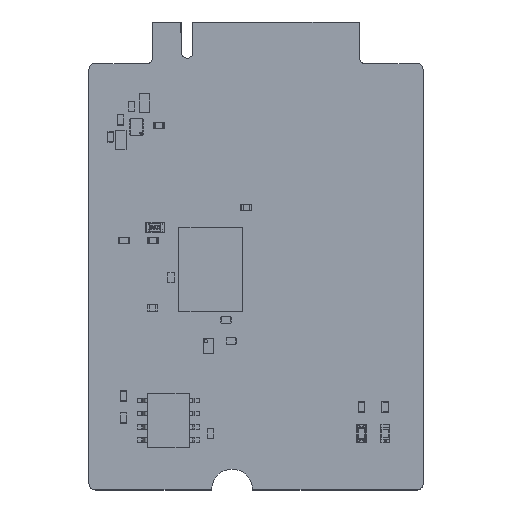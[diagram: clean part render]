
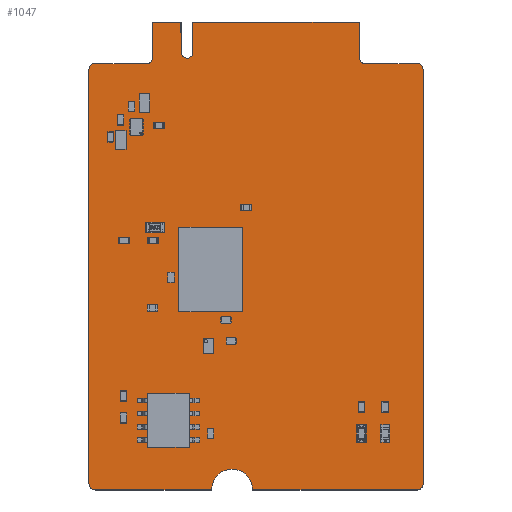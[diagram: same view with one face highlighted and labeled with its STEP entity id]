
A CAD part, top view. The second image highlights one B-rep face of the part: STEP entity #1047.
In plain terms, the highlighted planar face has unit normal (0, 0, 1).
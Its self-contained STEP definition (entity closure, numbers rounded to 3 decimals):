
#152 = VERTEX_POINT('',#153);
#153 = CARTESIAN_POINT('',(-0.011,0.543,0.796));
#159 = EDGE_CURVE('',#152,#160,#162,.T.);
#160 = VERTEX_POINT('',#161);
#161 = CARTESIAN_POINT('',(0.626,-0.094,0.796));
#162 = CIRCLE('',#163,0.635);
#163 = AXIS2_PLACEMENT_3D('',#164,#165,#166);
#164 = CARTESIAN_POINT('',(0.624,0.541,0.796));
#165 = DIRECTION('',(0.,0.,1.));
#166 = DIRECTION('',(-1.,0.003,0.));
#192 = EDGE_CURVE('',#160,#193,#195,.T.);
#193 = VERTEX_POINT('',#194);
#194 = CARTESIAN_POINT('',(11.739,-0.094,0.796));
#195 = LINE('',#196,#197);
#196 = CARTESIAN_POINT('',(0.626,-0.094,0.796));
#197 = VECTOR('',#198,1.);
#198 = DIRECTION('',(1.,0.,0.));
#223 = EDGE_CURVE('',#193,#224,#226,.T.);
#224 = VERTEX_POINT('',#225);
#225 = CARTESIAN_POINT('',(11.789,-0.044,0.796));
#226 = LINE('',#227,#228);
#227 = CARTESIAN_POINT('',(11.739,-0.094,0.796));
#228 = VECTOR('',#229,1.);
#229 = DIRECTION('',(0.707,0.707,0.));
#254 = EDGE_CURVE('',#224,#255,#257,.T.);
#255 = VERTEX_POINT('',#256);
#256 = CARTESIAN_POINT('',(15.689,-0.044,0.796));
#257 = CIRCLE('',#258,1.95);
#258 = AXIS2_PLACEMENT_3D('',#259,#260,#261);
#259 = CARTESIAN_POINT('',(13.739,-0.044,0.796));
#260 = DIRECTION('',(0.,0.,-1.));
#261 = DIRECTION('',(-1.,0.,0.));
#287 = EDGE_CURVE('',#255,#288,#290,.T.);
#288 = VERTEX_POINT('',#289);
#289 = CARTESIAN_POINT('',(15.739,-0.094,0.796));
#290 = LINE('',#291,#292);
#291 = CARTESIAN_POINT('',(15.689,-0.044,0.796));
#292 = VECTOR('',#293,1.);
#293 = DIRECTION('',(0.707,-0.707,0.));
#318 = EDGE_CURVE('',#288,#319,#321,.T.);
#319 = VERTEX_POINT('',#320);
#320 = CARTESIAN_POINT('',(31.54,-0.094,0.796));
#321 = LINE('',#322,#323);
#322 = CARTESIAN_POINT('',(15.739,-0.094,0.796));
#323 = VECTOR('',#324,1.);
#324 = DIRECTION('',(1.,0.,0.));
#349 = EDGE_CURVE('',#319,#350,#352,.T.);
#350 = VERTEX_POINT('',#351);
#351 = CARTESIAN_POINT('',(32.089,0.456,0.796));
#352 = CIRCLE('',#353,0.55);
#353 = AXIS2_PLACEMENT_3D('',#354,#355,#356);
#354 = CARTESIAN_POINT('',(31.539,0.456,0.796));
#355 = DIRECTION('',(0.,0.,1.));
#356 = DIRECTION('',(0.001,-1.,0.));
#382 = EDGE_CURVE('',#350,#383,#385,.T.);
#383 = VERTEX_POINT('',#384);
#384 = CARTESIAN_POINT('',(32.089,40.331,0.796));
#385 = LINE('',#386,#387);
#386 = CARTESIAN_POINT('',(32.089,0.456,0.796));
#387 = VECTOR('',#388,1.);
#388 = DIRECTION('',(0.,1.,0.));
#413 = EDGE_CURVE('',#383,#414,#416,.T.);
#414 = VERTEX_POINT('',#415);
#415 = CARTESIAN_POINT('',(31.539,40.881,0.796));
#416 = CIRCLE('',#417,0.55);
#417 = AXIS2_PLACEMENT_3D('',#418,#419,#420);
#418 = CARTESIAN_POINT('',(31.539,40.331,0.796));
#419 = DIRECTION('',(0.,0.,1.));
#420 = DIRECTION('',(1.,-0.001,0.));
#446 = EDGE_CURVE('',#414,#447,#449,.T.);
#447 = VERTEX_POINT('',#448);
#448 = CARTESIAN_POINT('',(26.464,40.881,0.796));
#449 = LINE('',#450,#451);
#450 = CARTESIAN_POINT('',(31.539,40.881,0.796));
#451 = VECTOR('',#452,1.);
#452 = DIRECTION('',(-1.,0.,0.));
#477 = EDGE_CURVE('',#447,#478,#480,.T.);
#478 = VERTEX_POINT('',#479);
#479 = CARTESIAN_POINT('',(26.015,41.331,0.796));
#480 = CIRCLE('',#481,0.449);
#481 = AXIS2_PLACEMENT_3D('',#482,#483,#484);
#482 = CARTESIAN_POINT('',(26.464,41.33,0.796));
#483 = DIRECTION('',(0.,0.,-1.));
#484 = DIRECTION('',(0.,-1.,0.));
#510 = EDGE_CURVE('',#478,#511,#513,.T.);
#511 = VERTEX_POINT('',#512);
#512 = CARTESIAN_POINT('',(26.015,44.831,0.796));
#513 = LINE('',#514,#515);
#514 = CARTESIAN_POINT('',(26.015,41.331,0.796));
#515 = VECTOR('',#516,1.);
#516 = DIRECTION('',(0.,1.,0.));
#541 = EDGE_CURVE('',#511,#478,#542,.T.);
#542 = LINE('',#543,#544);
#543 = CARTESIAN_POINT('',(26.015,44.831,0.796));
#544 = VECTOR('',#545,1.);
#545 = DIRECTION('',(0.,-1.,0.));
#563 = EDGE_CURVE('',#478,#564,#566,.T.);
#564 = VERTEX_POINT('',#565);
#565 = CARTESIAN_POINT('',(25.964,44.881,0.796));
#566 = LINE('',#567,#568);
#567 = CARTESIAN_POINT('',(26.015,41.331,0.796));
#568 = VECTOR('',#569,1.);
#569 = DIRECTION('',(-0.014,1.,0.));
#594 = EDGE_CURVE('',#564,#595,#597,.T.);
#595 = VERTEX_POINT('',#596);
#596 = CARTESIAN_POINT('',(10.014,44.881,0.796));
#597 = LINE('',#598,#599);
#598 = CARTESIAN_POINT('',(25.964,44.881,0.796));
#599 = VECTOR('',#600,1.);
#600 = DIRECTION('',(-1.,0.,0.));
#625 = EDGE_CURVE('',#595,#626,#628,.T.);
#626 = VERTEX_POINT('',#627);
#627 = CARTESIAN_POINT('',(9.964,44.831,0.796));
#628 = LINE('',#629,#630);
#629 = CARTESIAN_POINT('',(10.014,44.881,0.796));
#630 = VECTOR('',#631,1.);
#631 = DIRECTION('',(-0.707,-0.707,0.));
#656 = EDGE_CURVE('',#626,#657,#659,.T.);
#657 = VERTEX_POINT('',#658);
#658 = CARTESIAN_POINT('',(9.964,41.951,0.796));
#659 = LINE('',#660,#661);
#660 = CARTESIAN_POINT('',(9.964,44.831,0.796));
#661 = VECTOR('',#662,1.);
#662 = DIRECTION('',(0.,-1.,0.));
#687 = EDGE_CURVE('',#657,#688,#690,.T.);
#688 = VERTEX_POINT('',#689);
#689 = CARTESIAN_POINT('',(8.864,41.951,0.796));
#690 = CIRCLE('',#691,0.55);
#691 = AXIS2_PLACEMENT_3D('',#692,#693,#694);
#692 = CARTESIAN_POINT('',(9.414,41.951,0.796));
#693 = DIRECTION('',(0.,0.,-1.));
#694 = DIRECTION('',(1.,0.,0.));
#720 = EDGE_CURVE('',#688,#721,#723,.T.);
#721 = VERTEX_POINT('',#722);
#722 = CARTESIAN_POINT('',(8.864,44.831,0.796));
#723 = LINE('',#724,#725);
#724 = CARTESIAN_POINT('',(8.864,41.951,0.796));
#725 = VECTOR('',#726,1.);
#726 = DIRECTION('',(0.,1.,0.));
#751 = EDGE_CURVE('',#721,#688,#752,.T.);
#752 = LINE('',#753,#754);
#753 = CARTESIAN_POINT('',(8.864,44.831,0.796));
#754 = VECTOR('',#755,1.);
#755 = DIRECTION('',(0.,-1.,0.));
#773 = EDGE_CURVE('',#688,#774,#776,.T.);
#774 = VERTEX_POINT('',#775);
#775 = CARTESIAN_POINT('',(8.814,44.881,0.796));
#776 = LINE('',#777,#778);
#777 = CARTESIAN_POINT('',(8.864,41.951,0.796));
#778 = VECTOR('',#779,1.);
#779 = DIRECTION('',(-0.017,1.,0.));
#804 = EDGE_CURVE('',#774,#805,#807,.T.);
#805 = VERTEX_POINT('',#806);
#806 = CARTESIAN_POINT('',(6.114,44.881,0.796));
#807 = LINE('',#808,#809);
#808 = CARTESIAN_POINT('',(8.814,44.881,0.796));
#809 = VECTOR('',#810,1.);
#810 = DIRECTION('',(-1.,0.,0.));
#835 = EDGE_CURVE('',#805,#836,#838,.T.);
#836 = VERTEX_POINT('',#837);
#837 = CARTESIAN_POINT('',(6.064,44.831,0.796));
#838 = LINE('',#839,#840);
#839 = CARTESIAN_POINT('',(6.114,44.881,0.796));
#840 = VECTOR('',#841,1.);
#841 = DIRECTION('',(-0.707,-0.707,0.));
#866 = EDGE_CURVE('',#836,#867,#869,.T.);
#867 = VERTEX_POINT('',#868);
#868 = CARTESIAN_POINT('',(6.064,41.331,0.796));
#869 = LINE('',#870,#871);
#870 = CARTESIAN_POINT('',(6.064,44.831,0.796));
#871 = VECTOR('',#872,1.);
#872 = DIRECTION('',(0.,-1.,0.));
#897 = EDGE_CURVE('',#867,#898,#900,.T.);
#898 = VERTEX_POINT('',#899);
#899 = CARTESIAN_POINT('',(5.614,40.881,0.796));
#900 = CIRCLE('',#901,0.451);
#901 = AXIS2_PLACEMENT_3D('',#902,#903,#904);
#902 = CARTESIAN_POINT('',(5.613,41.332,0.796));
#903 = DIRECTION('',(0.,0.,-1.));
#904 = DIRECTION('',(1.,-0.002,0.));
#930 = EDGE_CURVE('',#898,#931,#933,.T.);
#931 = VERTEX_POINT('',#932);
#932 = CARTESIAN_POINT('',(0.539,40.881,0.796));
#933 = LINE('',#934,#935);
#934 = CARTESIAN_POINT('',(5.614,40.881,0.796));
#935 = VECTOR('',#936,1.);
#936 = DIRECTION('',(-1.,0.,0.));
#961 = EDGE_CURVE('',#931,#962,#964,.T.);
#962 = VERTEX_POINT('',#963);
#963 = CARTESIAN_POINT('',(-0.011,40.331,0.796));
#964 = CIRCLE('',#965,0.55);
#965 = AXIS2_PLACEMENT_3D('',#966,#967,#968);
#966 = CARTESIAN_POINT('',(0.539,40.331,0.796));
#967 = DIRECTION('',(0.,0.,1.));
#968 = DIRECTION('',(0.001,1.,-0.));
#994 = EDGE_CURVE('',#962,#152,#995,.T.);
#995 = LINE('',#996,#997);
#996 = CARTESIAN_POINT('',(-0.011,40.331,0.796));
#997 = VECTOR('',#998,1.);
#998 = DIRECTION('',(0.,-1.,0.));
#1047 = ADVANCED_FACE('',(#1048),#1078,.T.);
#1048 = FACE_BOUND('',#1049,.T.);
#1049 = EDGE_LOOP('',(#1050,#1051,#1052,#1053,#1054,#1055,#1056,#1057,
    #1058,#1059,#1060,#1061,#1062,#1063,#1064,#1065,#1066,#1067,#1068,
    #1069,#1070,#1071,#1072,#1073,#1074,#1075,#1076,#1077));
#1050 = ORIENTED_EDGE('',*,*,#159,.T.);
#1051 = ORIENTED_EDGE('',*,*,#192,.T.);
#1052 = ORIENTED_EDGE('',*,*,#223,.T.);
#1053 = ORIENTED_EDGE('',*,*,#254,.T.);
#1054 = ORIENTED_EDGE('',*,*,#287,.T.);
#1055 = ORIENTED_EDGE('',*,*,#318,.T.);
#1056 = ORIENTED_EDGE('',*,*,#349,.T.);
#1057 = ORIENTED_EDGE('',*,*,#382,.T.);
#1058 = ORIENTED_EDGE('',*,*,#413,.T.);
#1059 = ORIENTED_EDGE('',*,*,#446,.T.);
#1060 = ORIENTED_EDGE('',*,*,#477,.T.);
#1061 = ORIENTED_EDGE('',*,*,#510,.T.);
#1062 = ORIENTED_EDGE('',*,*,#541,.T.);
#1063 = ORIENTED_EDGE('',*,*,#563,.T.);
#1064 = ORIENTED_EDGE('',*,*,#594,.T.);
#1065 = ORIENTED_EDGE('',*,*,#625,.T.);
#1066 = ORIENTED_EDGE('',*,*,#656,.T.);
#1067 = ORIENTED_EDGE('',*,*,#687,.T.);
#1068 = ORIENTED_EDGE('',*,*,#720,.T.);
#1069 = ORIENTED_EDGE('',*,*,#751,.T.);
#1070 = ORIENTED_EDGE('',*,*,#773,.T.);
#1071 = ORIENTED_EDGE('',*,*,#804,.T.);
#1072 = ORIENTED_EDGE('',*,*,#835,.T.);
#1073 = ORIENTED_EDGE('',*,*,#866,.T.);
#1074 = ORIENTED_EDGE('',*,*,#897,.T.);
#1075 = ORIENTED_EDGE('',*,*,#930,.T.);
#1076 = ORIENTED_EDGE('',*,*,#961,.T.);
#1077 = ORIENTED_EDGE('',*,*,#994,.T.);
#1078 = PLANE('',#1079);
#1079 = AXIS2_PLACEMENT_3D('',#1080,#1081,#1082);
#1080 = CARTESIAN_POINT('',(15.937,24.128,0.796));
#1081 = DIRECTION('',(0.,0.,1.));
#1082 = DIRECTION('',(1.,0.,-0.));
